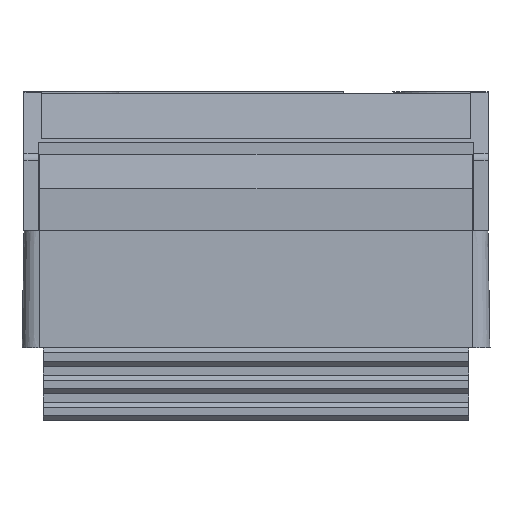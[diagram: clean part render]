
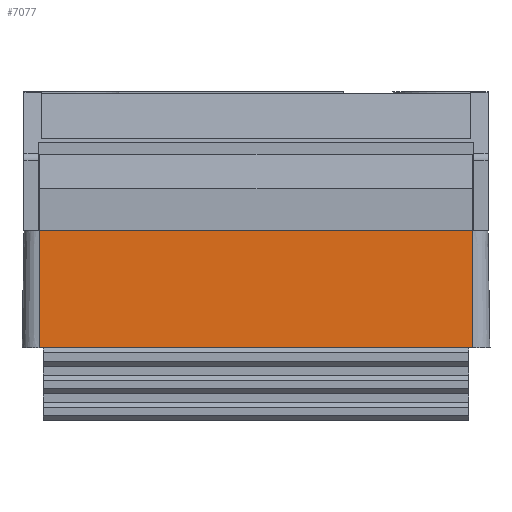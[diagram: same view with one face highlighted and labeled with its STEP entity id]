
A CAD part, front view. The second image highlights one B-rep face of the part: STEP entity #7077.
In plain terms, the highlighted planar face has unit normal (0, -1, 0.018).
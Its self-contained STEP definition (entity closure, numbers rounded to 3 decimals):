
#157 = CARTESIAN_POINT ( 'NONE',  ( 25.5, -8741.317, -499000. ) ) ;
#268 = FACE_OUTER_BOUND ( 'NONE', #5211, .T. ) ;
#639 = CARTESIAN_POINT ( 'NONE',  ( 25.5, -31.24, 0. ) ) ;
#684 = VERTEX_POINT ( 'NONE', #639 ) ;
#2529 = VECTOR ( 'NONE', #3873, 1000. ) ;
#2900 = ORIENTED_EDGE ( 'NONE', *, *, #3388, .T. ) ;
#3388 = EDGE_CURVE ( 'NONE', #14576, #684, #5998, .T. ) ;
#3716 = VECTOR ( 'NONE', #7963, 1000. ) ;
#3873 = DIRECTION ( 'NONE',  ( 0., -0.017, -1. ) ) ;
#4073 = CARTESIAN_POINT ( 'NONE',  ( -25.5, -31.24, 0. ) ) ;
#4743 = DIRECTION ( 'NONE',  ( 0., -0.017, -1. ) ) ;
#4797 = DIRECTION ( 'NONE',  ( 0., -1., 0.017 ) ) ;
#5128 = ORIENTED_EDGE ( 'NONE', *, *, #15457, .T. ) ;
#5211 = EDGE_LOOP ( 'NONE', ( #7094, #5128, #2900, #6888 ) ) ;
#5795 = LINE ( 'NONE', #157, #2529 ) ;
#5828 = CARTESIAN_POINT ( 'NONE',  ( -25.5, -31., 13.75 ) ) ;
#5998 = LINE ( 'NONE', #4073, #3716 ) ;
#6261 = VERTEX_POINT ( 'NONE', #15151 ) ;
#6888 = ORIENTED_EDGE ( 'NONE', *, *, #14961, .F. ) ;
#7077 = ADVANCED_FACE ( 'NONE', ( #268 ), #14754, .T. ) ;
#7094 = ORIENTED_EDGE ( 'NONE', *, *, #14461, .T. ) ;
#7508 = VECTOR ( 'NONE', #8790, 1000. ) ;
#7597 = CARTESIAN_POINT ( 'NONE',  ( -25.5, -31.24, 0. ) ) ;
#7963 = DIRECTION ( 'NONE',  ( 1., 0., 0. ) ) ;
#8790 = DIRECTION ( 'NONE',  ( 0., -0.017, -1. ) ) ;
#9309 = CARTESIAN_POINT ( 'NONE',  ( -25.5, -31., 13.75 ) ) ;
#9882 = AXIS2_PLACEMENT_3D ( 'NONE', #15774, #4797, #4743 ) ;
#13021 = DIRECTION ( 'NONE',  ( -1., 0., 0. ) ) ;
#13791 = VECTOR ( 'NONE', #13021, 1000. ) ;
#13872 = LINE ( 'NONE', #7597, #7508 ) ;
#14054 = VERTEX_POINT ( 'NONE', #5828 ) ;
#14461 = EDGE_CURVE ( 'NONE', #6261, #14054, #14545, .T. ) ;
#14545 = LINE ( 'NONE', #9309, #13791 ) ;
#14576 = VERTEX_POINT ( 'NONE', #15725 ) ;
#14754 = PLANE ( 'NONE',  #9882 ) ;
#14961 = EDGE_CURVE ( 'NONE', #6261, #684, #5795, .T. ) ;
#15151 = CARTESIAN_POINT ( 'NONE',  ( 25.5, -31., 13.75 ) ) ;
#15457 = EDGE_CURVE ( 'NONE', #14054, #14576, #13872, .T. ) ;
#15725 = CARTESIAN_POINT ( 'NONE',  ( -25.5, -31.24, 0. ) ) ;
#15774 = CARTESIAN_POINT ( 'NONE',  ( -25.5, -31.24, 0. ) ) ;
